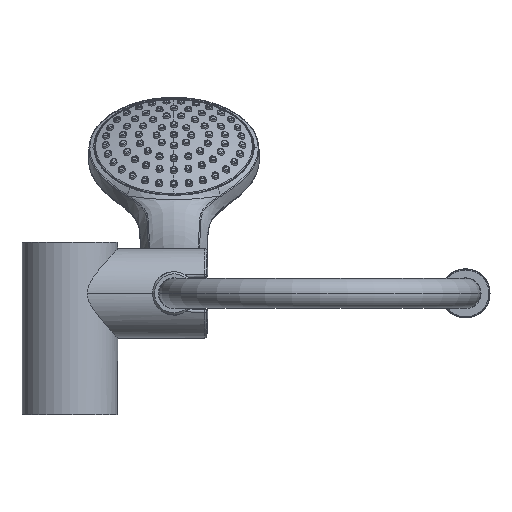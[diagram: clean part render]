
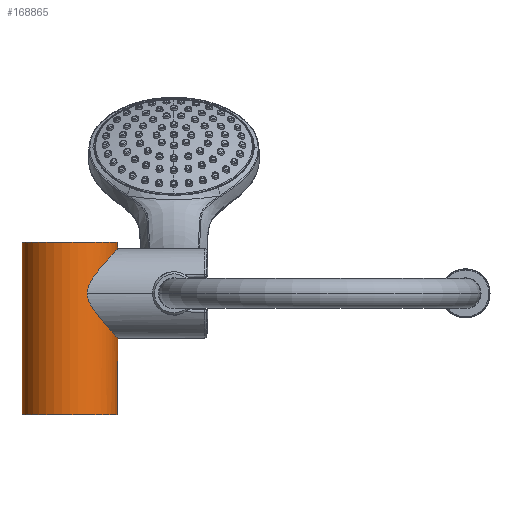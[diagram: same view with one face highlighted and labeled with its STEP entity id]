
A CAD part, front view. The second image highlights one B-rep face of the part: STEP entity #168865.
In plain terms, the highlighted cylindrical face has radius 22.5 mm (diameter 45 mm), a partial arc.
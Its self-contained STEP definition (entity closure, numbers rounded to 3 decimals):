
#167542=CARTESIAN_POINT('',(8.078,-21.,57.));
#167543=CARTESIAN_POINT('',(8.078,-21.,57.286));
#167544=CARTESIAN_POINT('',(8.109,-20.988,
57.87));
#167545=CARTESIAN_POINT('',(8.252,-20.933,
58.764));
#167546=CARTESIAN_POINT('',(8.508,-20.83,
59.726));
#167547=CARTESIAN_POINT('',(8.901,-20.667,
60.784));
#167548=CARTESIAN_POINT('',(9.456,-20.42,
61.953));
#167549=CARTESIAN_POINT('',(10.176,-20.074,
63.218));
#167550=CARTESIAN_POINT('',(11.059,-19.605,
64.577));
#167551=CARTESIAN_POINT('',(12.124,-18.971,
66.06));
#167552=CARTESIAN_POINT('',(13.376,-18.117,
67.678));
#167553=CARTESIAN_POINT('',(14.741,-17.03,
69.342));
#167554=CARTESIAN_POINT('',(16.052,-15.8,
70.878));
#167555=CARTESIAN_POINT('',(17.25,-14.482,
72.245));
#167556=CARTESIAN_POINT('',(18.317,-13.104,
73.442));
#167557=CARTESIAN_POINT('',(19.25,-11.689,
74.475));
#167558=CARTESIAN_POINT('',(20.055,-10.243,
75.357));
#167559=CARTESIAN_POINT('',(20.733,-8.788,
76.096));
#167560=CARTESIAN_POINT('',(21.295,-7.319,
76.704));
#167561=CARTESIAN_POINT('',(21.743,-5.852,
77.187));
#167562=CARTESIAN_POINT('',(22.085,-4.385,
77.555));
#167563=CARTESIAN_POINT('',(22.326,-2.92,
77.813));
#167564=CARTESIAN_POINT('',(22.468,-1.46,
77.966));
#167565=CARTESIAN_POINT('',(22.5,-0.485,78.));
#167566=CARTESIAN_POINT('',(22.5,0.,78.));
#167719=DIRECTION('',(0.,0.,1.));
#167720=VECTOR('',#167719,81.);
#167721=CARTESIAN_POINT('',(-22.5,0.,0.));
#167722=LINE('',#167721,#167720);
#167723=DIRECTION('',(0.,0.,-1.));
#167724=VECTOR('',#167723,3.);
#167725=CARTESIAN_POINT('',(22.5,0.,81.));
#167726=LINE('',#167725,#167724);
#167727=CARTESIAN_POINT('',(8.078,-21.,57.));
#167728=CARTESIAN_POINT('',(8.078,-21.,56.714));
#167729=CARTESIAN_POINT('',(8.109,-20.988,
56.13));
#167730=CARTESIAN_POINT('',(8.252,-20.933,
55.235));
#167731=CARTESIAN_POINT('',(8.508,-20.83,
54.273));
#167732=CARTESIAN_POINT('',(8.901,-20.667,
53.216));
#167733=CARTESIAN_POINT('',(9.456,-20.421,
52.048));
#167734=CARTESIAN_POINT('',(10.175,-20.074,
50.784));
#167735=CARTESIAN_POINT('',(11.057,-19.606,
49.426));
#167736=CARTESIAN_POINT('',(12.121,-18.973,
47.944));
#167737=CARTESIAN_POINT('',(13.374,-18.119,
46.326));
#167738=CARTESIAN_POINT('',(14.739,-17.032,
44.661));
#167739=CARTESIAN_POINT('',(16.051,-15.802,
43.124));
#167740=CARTESIAN_POINT('',(17.248,-14.484,
41.756));
#167741=CARTESIAN_POINT('',(18.316,-13.106,
40.559));
#167742=CARTESIAN_POINT('',(19.249,-11.69,
39.526));
#167743=CARTESIAN_POINT('',(20.054,-10.245,
38.643));
#167744=CARTESIAN_POINT('',(20.733,-8.789,
37.905));
#167745=CARTESIAN_POINT('',(21.295,-7.32,
37.296));
#167746=CARTESIAN_POINT('',(21.743,-5.853,
36.813));
#167747=CARTESIAN_POINT('',(22.085,-4.386,
36.445));
#167748=CARTESIAN_POINT('',(22.326,-2.92,
36.187));
#167749=CARTESIAN_POINT('',(22.468,-1.46,
36.034));
#167750=CARTESIAN_POINT('',(22.5,-0.486,36.));
#167751=CARTESIAN_POINT('',(22.5,0.,36.));
#167777=CARTESIAN_POINT('',(22.5,0.,78.));
#167779=DIRECTION('',(0.,0.,1.));
#167780=VECTOR('',#167779,36.);
#167781=CARTESIAN_POINT('',(22.5,0.,0.));
#167782=LINE('',#167781,#167780);
#167783=CARTESIAN_POINT('',(0.,0.,81.));
#167784=DIRECTION('',(0.,0.,-1.));
#167785=DIRECTION('',(1.,0.,0.));
#167786=AXIS2_PLACEMENT_3D('',#167783,#167784,#167785);
#167798=CARTESIAN_POINT('',(0.,0.,0.));
#167799=DIRECTION('',(0.,0.,1.));
#167800=DIRECTION('',(-1.,0.,0.));
#167801=AXIS2_PLACEMENT_3D('',#167798,#167799,#167800);
#167804=VERTEX_POINT('',#167777);
#167805=CARTESIAN_POINT('',(22.5,0.,81.));
#167806=VERTEX_POINT('',#167805);
#167807=CARTESIAN_POINT('',(-22.5,0.,81.));
#167808=VERTEX_POINT('',#167807);
#167809=CARTESIAN_POINT('',(-22.5,0.,0.));
#167810=VERTEX_POINT('',#167809);
#167811=CARTESIAN_POINT('',(22.5,0.,0.));
#167812=VERTEX_POINT('',#167811);
#167813=CARTESIAN_POINT('',(22.5,0.,36.));
#167814=VERTEX_POINT('',#167813);
#167815=VERTEX_POINT('',#167542);
#168846=CARTESIAN_POINT('',(0.,0.,-1.56));
#168847=DIRECTION('',(0.,0.,1.));
#168848=DIRECTION('',(1.,0.,0.));
#168849=AXIS2_PLACEMENT_3D('',#168846,#168847,#168848);
#168850=CYLINDRICAL_SURFACE('',#168849,22.5);
#168852=ORIENTED_EDGE('',*,*,#168851,.T.);
#168854=ORIENTED_EDGE('',*,*,#168853,.F.);
#168856=ORIENTED_EDGE('',*,*,#168855,.T.);
#168857=ORIENTED_EDGE('',*,*,#168656,.F.);
#168858=ORIENTED_EDGE('',*,*,#168637,.T.);
#168860=ORIENTED_EDGE('',*,*,#168859,.F.);
#168862=ORIENTED_EDGE('',*,*,#168861,.F.);
#168863=EDGE_LOOP('',(#168852,#168854,#168856,#168857,#168858,#168860,#168862));
#168864=FACE_OUTER_BOUND('',#168863,.F.);
#168865=ADVANCED_FACE('',(#168864),#168850,.T.);
#167567=B_SPLINE_CURVE_WITH_KNOTS('',3,(#167542,#167543,#167544,#167545,#167546,
#167547,#167548,#167549,#167550,#167551,#167552,#167553,#167554,#167555,#167556,
#167557,#167558,#167559,#167560,#167561,#167562,#167563,#167564,#167565,
#167566),.UNSPECIFIED.,.F.,.F.,(4,1,1,1,1,1,1,1,1,1,1,1,1,1,1,1,1,1,1,1,1,1,4),(
0.,0.045,0.091,0.136,0.182,
0.227,0.273,0.318,0.364,
0.409,0.455,0.5,0.545,0.591,
0.636,0.682,0.727,0.773,
0.818,0.864,0.909,0.955,1.),
.UNSPECIFIED.);
#167752=B_SPLINE_CURVE_WITH_KNOTS('',3,(#167727,#167728,#167729,#167730,#167731,
#167732,#167733,#167734,#167735,#167736,#167737,#167738,#167739,#167740,#167741,
#167742,#167743,#167744,#167745,#167746,#167747,#167748,#167749,#167750,
#167751),.UNSPECIFIED.,.F.,.F.,(4,1,1,1,1,1,1,1,1,1,1,1,1,1,1,1,1,1,1,1,1,1,4),(
0.,0.045,0.091,0.136,0.182,
0.227,0.273,0.318,0.364,
0.409,0.455,0.5,0.545,0.591,
0.636,0.682,0.727,0.773,
0.818,0.864,0.909,0.955,1.),
.UNSPECIFIED.);
#167787=CIRCLE('',#167786,22.5);
#167802=CIRCLE('',#167801,22.5);
#168637=EDGE_CURVE('',#167815,#167814,#167752,.T.);
#168656=EDGE_CURVE('',#167815,#167804,#167567,.T.);
#168851=EDGE_CURVE('',#167810,#167808,#167722,.T.);
#168853=EDGE_CURVE('',#167806,#167808,#167787,.T.);
#168855=EDGE_CURVE('',#167806,#167804,#167726,.T.);
#168859=EDGE_CURVE('',#167812,#167814,#167782,.T.);
#168861=EDGE_CURVE('',#167810,#167812,#167802,.T.);
